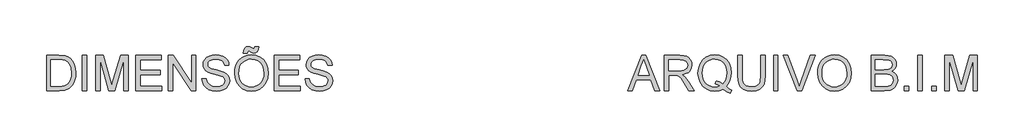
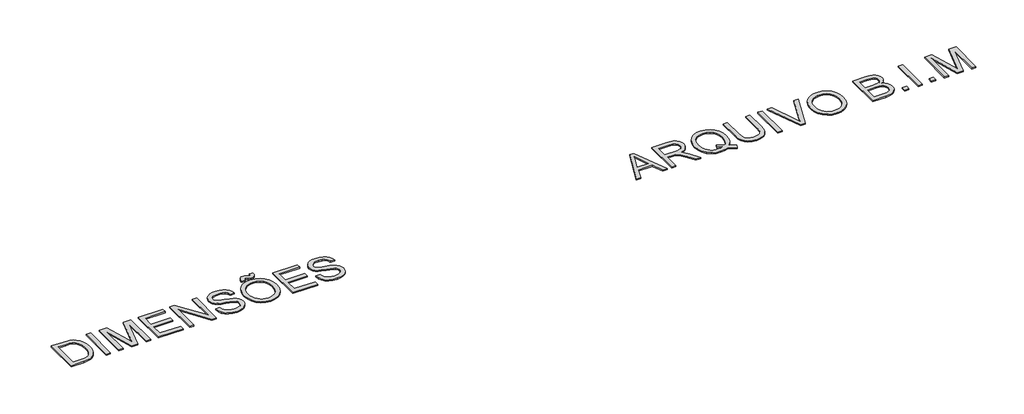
# One storey, part 38 of 39: 2 proxies.
"""IFC4 building model written with IfcOpenShell, lengths in millimetres."""

from ifc_helpers import new_model, si_unit, origin, origin_with_axes, place, context, project, spatial, polyline, outline, extrude, element, save

model = new_model("IFC4")

# Units and contexts
model_context = context("Model", 3, world=origin())
ifc_project = project(units=[si_unit("LENGTHUNIT", "METRE", prefix="MILLI")], contexts=[model_context])

# Site, building, storey
site = spatial("IfcSite", under=ifc_project)
building = spatial("IfcBuilding", under=site)
storey = spatial("IfcBuildingStorey", under=building, Name="Marelli - Linha PROFIT - Planta Baixa", Elevation=0.0)

# Proxies
placement = place(None, origin())
element("IfcBuildingElementProxy", 1, Name="300mm Arial", ObjectType="300mm Arial", at=placement, inside=storey, context=model_context, shape_type="SweptSolid", body=[
    extrude(outline(polyline([(24684.665269, 14219.4336799), (24684.665269, 14520.8026104), (24788.6287208, 14520.8026104), (24842.4130685, 14516.4616028), (24866.4357628, 14508.0922874), (24886.7060607, 14494.9037179), (24907.5465757, 14471.9478814), (24922.3906142, 14443.4002386), (24931.2749644, 14409.8126124), (24934.2364145, 14371.7368259), (24932.2314576, 14339.3908015), (24926.216587, 14310.9259321), (24917.0563253, 14286.6917057), (24905.6151953, 14267.0376101), (24892.4450198, 14251.522187), (24878.097622, 14239.7039779), (24861.6257057, 14230.9391893), (24842.0819747, 14224.5840279), (24793.6319159, 14219.4336799), (24684.665269, 14219.4336799)]), holes=[polyline([(24722.3363853, 14257.1047962), (24788.9966028, 14257.1047962), (24816.5693583, 14258.4659596), (24837.4834498, 14262.5494498), (24853.2655873, 14269.1161434), (24865.4424814, 14277.9269172), (24878.5298834, 14294.2332866), (24888.3615297, 14315.3405161), (24894.5143561, 14341.3405761), (24896.5652982, 14372.3254371), (24892.5461874, 14413.3810678), (24880.488855, 14443.6945442), (24862.6741694, 14464.5166651), (24841.3829989, 14477.0982294), (24819.7147494, 14481.6231779), (24787.9665332, 14483.1314941), (24722.3363853, 14483.1314941), (24722.3363853, 14257.1047962)])]), origin_with_axes(), (0.0, 0.0, 1.0), 10.0),
    extrude(outline(polyline([(24990.7430889, 14219.4336799), (24990.7430889, 14520.8026104), (25028.4142052, 14520.8026104), (25028.4142052, 14219.4336799), (24990.7430889, 14219.4336799)])), origin_with_axes(), (0.0, 0.0, 1.0), 10.0),
    extrude(outline(polyline([(25103.7564379, 14219.4336799), (25103.7564379, 14520.8026104), (25168.5772454, 14520.8026104), (25230.2342678, 14308.3875464), (25242.6686792, 14264.0209777), (25256.1331603, 14312.0663663), (25316.7601131, 14520.8026104), (25381.5809206, 14520.8026104), (25381.5809206, 14219.4336799), (25343.9098043, 14219.4336799), (25343.9098043, 14483.1314941), (25268.1996897, 14219.4336799), (25217.1376688, 14219.4336799), (25141.4275542, 14483.1314941), (25141.4275542, 14219.4336799), (25103.7564379, 14219.4336799)])), origin_with_axes(), (0.0, 0.0, 1.0), 10.0),
    extrude(outline(polyline([(25447.5053742, 14219.4336799), (25447.5053742, 14520.8026104), (25664.1142929, 14520.8026104), (25664.1142929, 14483.1314941), (25485.1764905, 14483.1314941), (25485.1764905, 14393.6625928), (25654.6965138, 14393.6625928), (25654.6965138, 14355.9914765), (25485.1764905, 14355.9914765), (25485.1764905, 14257.1047962), (25668.8231825, 14257.1047962), (25668.8231825, 14219.4336799), (25447.5053742, 14219.4336799)])), origin_with_axes(), (0.0, 0.0, 1.0), 10.0),
    extrude(outline(polyline([(25725.3298569, 14219.4336799), (25725.3298569, 14520.8026104), (25765.6497236, 14520.8026104), (25923.1032175, 14282.0471955), (25923.1032175, 14520.8026104), (25960.7743338, 14520.8026104), (25960.7743338, 14219.4336799), (25920.4544672, 14219.4336799), (25763.0009732, 14458.2626712), (25763.0009732, 14219.4336799), (25725.3298569, 14219.4336799)])), origin_with_axes(), (0.0, 0.0, 1.0), 10.0),
    extrude(outline(polyline([(26012.5721187, 14323.0292498), (26050.2432351, 14323.0292498), (26054.5658485, 14302.1243554), (26062.3833409, 14285.3213453), (26074.578629, 14271.9856229), (26092.0346297, 14261.482592), (26113.3717854, 14254.667578), (26137.2105387, 14252.3959067), (26158.1982065, 14254.115755), (26176.5739122, 14259.2753), (26191.463936, 14267.4422803), (26201.9945581, 14278.1844346), (26208.257749, 14290.5176784), (26210.3454794, 14303.4579276), (26208.7819809, 14316.067083), (26204.0914854, 14326.9655871), (26194.5633418, 14336.2638046), (26178.4868986, 14344.0720999), (26123.6356931, 14358.4562859), (26087.6292428, 14367.9752325), (26064.5906329, 14377.0343267), (26045.8378482, 14389.7078614), (26032.5481111, 14405.0669347), (26024.6294511, 14422.7804528), (26021.9898978, 14442.5173218), (26025.2548505, 14464.5810445), (26035.0497087, 14485.154845), (26051.1169548, 14502.5924516), (26073.1990716, 14515.2475923), (26099.7049693, 14522.945523), (26129.0435584, 14525.5114999), (26160.8285628, 14522.8259614), (26188.6404416, 14514.7693457), (26211.4859135, 14501.5071997), (26228.3716971, 14483.2050705), (26239.0586691, 14461.0033921), (26243.3077061, 14436.0425987), (26205.6365898, 14436.0425987), (26198.7204083, 14458.5201886), (26184.2994341, 14474.7437846), (26161.7666619, 14484.5662339), (26130.5150864, 14487.8403836), (26098.5277469, 14484.6030221), (26076.5835859, 14474.8909374), (26063.8916571, 14460.5987219), (26059.6610141, 14443.6209678), (26062.6592524, 14429.1448113), (26071.6539672, 14417.5013461), (26092.9175465, 14407.0902857), (26133.1638368, 14396.458496), (26174.697714, 14386.3601352), (26199.8240543, 14377.5493615), (26221.2991658, 14363.8825453), (26236.28116, 14347.0151559), (26245.0827367, 14327.131134), (26248.0165957, 14304.4144208), (26244.6412784, 14281.1918699), (26234.5153264, 14259.3488764), (26218.0526072, 14240.5501065), (26195.6669877, 14226.460226), (26168.7472227, 14217.6586493), (26138.6820667, 14214.7247904), (26101.7743055, 14217.8885756), (26071.3964498, 14227.379931), (26047.1990115, 14243.235645), (26028.8325029, 14265.4925057), (26017.041885, 14292.6054088), (26012.5721187, 14323.0292498)])), origin_with_axes(), (0.0, 0.0, 1.0), 10.0),
    extrude(outline(polyline([(26290.3966015, 14366.1450196), (26292.9073961, 14401.4938808), (26300.43978, 14432.786843), (26312.9937531, 14460.0239063), (26330.5693154, 14483.2050705), (26352.1134047, 14501.7141334), (26376.5729589, 14514.9348926), (26403.9479778, 14522.8673481), (26434.2384616, 14525.5114999), (26473.767382, 14520.545093), (26509.2128122, 14505.6458722), (26538.6433718, 14481.8623012), (26560.1276804, 14450.2428437), (26573.2610676, 14412.31421), (26577.6388633, 14369.6031104), (26573.0311413, 14326.3217936), (26559.2079754, 14287.859731), (26536.9327206, 14256.1850912), (26506.9687321, 14233.266043), (26471.8268045, 14219.3601035), (26434.0177324, 14214.7247904), (26393.8818067, 14219.8475472), (26358.2340414, 14235.2158175), (26328.8770582, 14259.4408469), (26307.6134789, 14291.1338808), (26294.7008208, 14327.6001836), (26290.3966015, 14366.1450196)]), holes=[polyline([(26328.0677178, 14365.7771376), (26329.9508138, 14340.8025487), (26335.6001017, 14318.6330599), (26345.0155815, 14299.2686714), (26358.1972532, 14282.7093831), (26374.2208134, 14269.4472372), (26392.1619584, 14259.9742758), (26412.0206884, 14254.290499), (26433.7970032, 14252.3959067), (26455.9457986, 14254.3088931), (26476.0390533, 14260.0478522), (26494.0767674, 14269.6127841), (26510.0589408, 14283.0036887), (26523.1440435, 14299.9124649), (26532.4905455, 14320.0310115), (26538.0984466, 14343.3593285), (26539.967747, 14369.897416), (26536.7671737, 14403.2459188), (26527.1654536, 14432.0694731), (26511.4109072, 14455.641512), (26489.7518547, 14473.2354684), (26463.623036, 14484.1891548), (26434.4591908, 14487.8403836), (26413.4393333, 14486.0814478), (26393.936989, 14480.8046405), (26375.952158, 14472.0099615), (26359.4848402, 14459.697411), (26345.7398492, 14443.2737792), (26335.9219984, 14422.1458563), (26330.031288, 14396.3136425), (26328.0677178, 14365.7771376)])]), origin_with_axes(), (0.0, 0.0, 1.0), 10.0),
    extrude(outline(polyline([(26365.7388341, 14539.6381685), (26368.5899196, 14562.7963401), (26377.4374816, 14580.7673756), (26390.7732039, 14592.3004761), (26407.383076, 14596.144843), (26421.2890154, 14593.1098165), (26437.5493996, 14584.0047372), (26452.7797142, 14577.3092848), (26460.7627535, 14581.0984694), (26464.6255144, 14596.144843), (26497.5877412, 14596.144843), (26494.3043944, 14571.4231729), (26485.6315763, 14553.7648371), (26472.7281154, 14543.1698357), (26456.7528397, 14539.6381685), (26442.7549298, 14542.5076481), (26426.9543981, 14551.1160868), (26411.0618959, 14558.4737267), (26402.0855752, 14553.6912607), (26398.7010609, 14539.6381685), (26365.7388341, 14539.6381685)])), origin_with_axes(), (0.0, 0.0, 1.0), 10.0),
    extrude(outline(polyline([(26629.4366483, 14219.4336799), (26629.4366483, 14520.8026104), (26846.045567, 14520.8026104), (26846.045567, 14483.1314941), (26667.1077646, 14483.1314941), (26667.1077646, 14393.6625928), (26836.6277879, 14393.6625928), (26836.6277879, 14355.9914765), (26667.1077646, 14355.9914765), (26667.1077646, 14257.1047962), (26850.7544566, 14257.1047962), (26850.7544566, 14219.4336799), (26629.4366483, 14219.4336799)])), origin_with_axes(), (0.0, 0.0, 1.0), 10.0),
    extrude(outline(polyline([(26893.1344624, 14323.0292498), (26930.8055787, 14323.0292498), (26935.1281922, 14302.1243554), (26942.9456845, 14285.3213453), (26955.1409727, 14271.9856229), (26972.5969734, 14261.482592), (26993.9341291, 14254.667578), (27017.7728824, 14252.3959067), (27038.7605502, 14254.115755), (27057.1362559, 14259.2753), (27072.0262796, 14267.4422803), (27082.5569017, 14278.1844346), (27088.8200927, 14290.5176784), (27090.907823, 14303.4579276), (27089.3443245, 14316.067083), (27084.6538291, 14326.9655871), (27075.1256854, 14336.2638046), (27059.0492422, 14344.0720999), (27004.1980367, 14358.4562859), (26968.1915865, 14367.9752325), (26945.1529765, 14377.0343267), (26926.4001918, 14389.7078614), (26913.1104547, 14405.0669347), (26905.1917948, 14422.7804528), (26902.5522415, 14442.5173218), (26905.8171942, 14464.5810445), (26915.6120523, 14485.154845), (26931.6792984, 14502.5924516), (26953.7614152, 14515.2475923), (26980.267313, 14522.945523), (27009.6059021, 14525.5114999), (27041.3909065, 14522.8259614), (27069.2027853, 14514.7693457), (27092.0482572, 14501.5071997), (27108.9340408, 14483.2050705), (27119.6210127, 14461.0033921), (27123.8700498, 14436.0425987), (27086.1989335, 14436.0425987), (27079.282752, 14458.5201886), (27064.8617777, 14474.7437846), (27042.3290055, 14484.5662339), (27011.0774301, 14487.8403836), (26979.0900906, 14484.6030221), (26957.1459296, 14474.8909374), (26944.4540007, 14460.5987219), (26940.2233578, 14443.6209678), (26943.221596, 14429.1448113), (26952.2163108, 14417.5013461), (26973.4798901, 14407.0902857), (27013.7261804, 14396.458496), (27055.2600577, 14386.3601352), (27080.3863979, 14377.5493615), (27101.8615094, 14363.8825453), (27116.8435037, 14347.0151559), (27125.6450804, 14327.131134), (27128.5789393, 14304.4144208), (27125.203622, 14281.1918699), (27115.0776701, 14259.3488764), (27098.6149508, 14240.5501065), (27076.2293314, 14226.460226), (27049.3095664, 14217.6586493), (27019.2444103, 14214.7247904), (26982.3366492, 14217.8885756), (26951.9587934, 14227.379931), (26927.7613552, 14243.235645), (26909.3948466, 14265.4925057), (26897.6042286, 14292.6054088), (26893.1344624, 14323.0292498)])), origin_with_axes(), (0.0, 0.0, 1.0), 10.0),
])
element("IfcBuildingElementProxy", 2, Name="300mm Arial", ObjectType="300mm Arial", at=placement, inside=storey, context=model_context, shape_type="SweptSolid", body=[
    extrude(outline(polyline([(29649.579499, 14219.4336799), (29769.8769114, 14520.8026104), (29801.9562214, 14520.8026104), (29922.2536338, 14219.4336799), (29882.448802, 14219.4336799), (29847.9414708, 14313.6114707), (29723.8180857, 14313.6114707), (29689.3843309, 14219.4336799), (29649.579499, 14219.4336799)]), holes=[polyline([(29737.6504487, 14351.282587), (29834.1826842, 14351.282587), (29807.032993, 14425.3740208), (29785.9165664, 14483.1314941), (29767.1545847, 14431.8487439), (29737.6504487, 14351.282587)])]), origin_with_axes(), (0.0, 0.0, 1.0), 10.0),
    extrude(outline(polyline([(29962.4999241, 14219.4336799), (29962.4999241, 14520.8026104), (30092.3622684, 14520.8026104), (30127.2650727, 14518.7700624), (30152.6581274, 14512.6724183), (30171.2177741, 14501.4152292), (30185.6203542, 14483.9040463), (30194.8633893, 14462.1898115), (30197.944401, 14438.3234671), (30192.8400384, 14408.6353901), (30177.5269503, 14384.0240846), (30165.9271711, 14373.9947017), (30151.5452844, 14365.9794727), (30114.4351881, 14355.9914765), (30135.8459202, 14339.8782452), (30166.3801258, 14301.1034829), (30216.6328064, 14219.4336799), (30172.854849, 14219.4336799), (30133.6386283, 14281.9000427), (30105.3117146, 14323.249979), (30085.4092987, 14342.7845129), (30067.4934455, 14349.9582118), (30045.641255, 14351.282587), (30000.1710404, 14351.282587), (30000.1710404, 14219.4336799), (29962.4999241, 14219.4336799)]), holes=[polyline([(30000.1710404, 14388.9537033), (30084.4895937, 14388.9537033), (30108.7054261, 14390.2872755), (30127.494999, 14394.2879922), (30141.6400617, 14401.2225678), (30151.9223634, 14411.3577168), (30158.1855544, 14423.6173843), (30160.2732847, 14436.9255155), (30156.2909621, 14455.3012211), (30144.3439943, 14470.1084714), (30123.7885879, 14479.8757384), (30093.9809492, 14483.1314941), (30000.1710404, 14483.1314941), (30000.1710404, 14388.9537033)])]), origin_with_axes(), (0.0, 0.0, 1.0), 10.0),
    extrude(outline(polyline([(30490.2634344, 14255.5596919), (30514.5988284, 14236.963257), (30536.9844478, 14224.1425695), (30526.8309047, 14196.5514198), (30495.7632702, 14210.9539999), (30464.8060003, 14231.794515), (30429.9491813, 14218.9922215), (30391.5974833, 14214.7247904), (30353.0618443, 14219.6452121), (30318.2418135, 14234.4064771), (30289.0779683, 14258.0796835), (30267.5108863, 14289.7359292), (30254.184361, 14327.6369718), (30249.742186, 14370.0445688), (30254.175164, 14412.488954), (30267.4740981, 14450.9418195), (30288.9584066, 14483.0487206), (30317.9475079, 14506.4552126), (30352.63878, 14520.7474281), (30391.2296013, 14525.5114999), (30430.1239252, 14520.6370635), (30464.9899413, 14506.0137542), (30493.9330573, 14482.6164593), (30515.0586809, 14451.4200661), (30527.9713389, 14414.0800436), (30532.2755583, 14372.2518607), (30529.6635961, 14337.4686181), (30521.8277096, 14306.4009836), (30508.7127165, 14279.0857454), (30490.2634344, 14255.5596919)]), holes=[polyline([(30401.9717556, 14305.6652196), (30433.6463953, 14293.6906607), (30459.214194, 14277.0440004), (30474.6974275, 14294.5183951), (30485.75688, 14315.8923391), (30492.3925514, 14341.1658321), (30494.6044419, 14370.3388744), (30491.477445, 14403.4942392), (30482.0964541, 14432.1798377), (30466.6913956, 14455.6691031), (30445.4921956, 14473.2354684), (30419.933594, 14484.1891548), (30391.4503305, 14487.8403836), (30369.966022, 14485.9940758), (30350.3946998, 14480.4551526), (30332.7363641, 14471.2236137), (30316.9910147, 14458.2994594), (30304.0507655, 14441.7102807), (30294.8077304, 14421.4836687), (30289.2619093, 14397.6196236), (30287.4133023, 14370.1181452), (30289.2412159, 14343.3340366), (30294.7249569, 14319.8562676), (30303.8645252, 14299.6848379), (30316.6599209, 14282.8197477), (30332.2972049, 14269.5093173), (30349.9624385, 14260.0018669), (30369.6556215, 14254.2973968), (30391.3767541, 14252.3959067), (30412.2908455, 14254.3272872), (30431.91735, 14260.1214286), (30412.6219393, 14270.146213), (30392.2596709, 14276.8232712), (30401.9717556, 14305.6652196)])]), origin_with_axes(), (0.0, 0.0, 1.0), 10.0),
    extrude(outline(polyline([(30786.5555933, 14520.8026104), (30824.2267096, 14520.8026104), (30824.2267096, 14346.9415795), (30821.6699298, 14306.2262396), (30813.9995902, 14274.8734966), (30799.6705864, 14250.6852554), (30777.1378142, 14231.4634212), (30746.3460912, 14218.9094481), (30707.2402352, 14214.7247904), (30668.9897047, 14218.3668221), (30638.4095139, 14229.2929174), (30615.4904656, 14247.1259971), (30600.2233628, 14271.4889822), (30591.6425152, 14304.1661005), (30588.7822327, 14346.9415795), (30588.7822327, 14520.8026104), (30626.453349, 14520.8026104), (30626.453349, 14348.2659546), (30628.3111531, 14314.411614), (30633.8845653, 14290.8395752), (30643.9829261, 14274.5148117), (30659.4155758, 14262.402297), (30679.5387209, 14254.8975043), (30703.708568, 14252.3959067), (30742.0234778, 14257.3439195), (30756.3662771, 14263.5289356), (30767.499306, 14272.187958), (30775.8364317, 14284.3648521), (30781.7915215, 14301.1034829), (30786.5555933, 14348.2659546), (30786.5555933, 14520.8026104)])), origin_with_axes(), (0.0, 0.0, 1.0), 10.0),
    extrude(outline(polyline([(30894.8600527, 14219.4336799), (30894.8600527, 14520.8026104), (30932.531169, 14520.8026104), (30932.531169, 14219.4336799), (30894.8600527, 14219.4336799)])), origin_with_axes(), (0.0, 0.0, 1.0), 10.0),
    extrude(outline(polyline([(31096.9008444, 14219.4336799), (30976.971314, 14520.8026104), (31017.2911807, 14520.8026104), (31097.563032, 14303.6786568), (31113.8234162, 14254.7503515), (31129.8630712, 14303.6786568), (31210.3556518, 14520.8026104), (31250.6755184, 14520.8026104), (31135.8227595, 14219.4336799), (31096.9008444, 14219.4336799)])), origin_with_axes(), (0.0, 0.0, 1.0), 10.0),
    extrude(outline(polyline([(31271.5712158, 14366.1450196), (31274.0820104, 14401.4938808), (31281.6143942, 14432.786843), (31294.1683673, 14460.0239063), (31311.7439296, 14483.2050705), (31333.288019, 14501.7141334), (31357.7475731, 14514.9348926), (31385.1225921, 14522.8673481), (31415.4130759, 14525.5114999), (31454.9419963, 14520.545093), (31490.3874265, 14505.6458722), (31519.8179861, 14481.8623012), (31541.3022946, 14450.2428437), (31554.4356819, 14412.31421), (31558.8134776, 14369.6031104), (31554.2057556, 14326.3217936), (31540.3825896, 14287.859731), (31518.1073348, 14256.1850912), (31488.1433463, 14233.266043), (31453.0014187, 14219.3601035), (31415.1923467, 14214.7247904), (31375.056421, 14219.8475472), (31339.4086557, 14235.2158175), (31310.0516725, 14259.4408469), (31288.7880931, 14291.1338808), (31275.8754351, 14327.6001836), (31271.5712158, 14366.1450196)]), holes=[polyline([(31309.2423321, 14365.7771376), (31311.125428, 14340.8025487), (31316.7747159, 14318.6330599), (31326.1901957, 14299.2686714), (31339.3718675, 14282.7093831), (31355.3954276, 14269.4472372), (31373.3365727, 14259.9742758), (31393.1953026, 14254.290499), (31414.9716175, 14252.3959067), (31437.1204129, 14254.3088931), (31457.2136676, 14260.0478522), (31475.2513817, 14269.6127841), (31491.2335551, 14283.0036887), (31504.3186578, 14299.9124649), (31513.6651597, 14320.0310115), (31519.2730609, 14343.3593285), (31521.1423613, 14369.897416), (31517.9417879, 14403.2459188), (31508.3400679, 14432.0694731), (31492.5855214, 14455.641512), (31470.9264689, 14473.2354684), (31444.7976502, 14484.1891548), (31415.6338051, 14487.8403836), (31394.6139476, 14486.0814478), (31375.1116033, 14480.8046405), (31357.1267723, 14472.0099615), (31340.6594545, 14459.697411), (31326.9144634, 14443.2737792), (31317.0966127, 14422.1458563), (31311.2059022, 14396.3136425), (31309.2423321, 14365.7771376)])]), origin_with_axes(), (0.0, 0.0, 1.0), 10.0),
    extrude(outline(polyline([(31728.333501, 14219.4336799), (31728.333501, 14520.8026104), (31843.3334127, 14520.8026104), (31874.9620672, 14518.5861214), (31899.6561461, 14511.9366543), (31918.5836748, 14500.6886623), (31932.9126785, 14484.6765985), (31941.9349844, 14465.8410403), (31944.9424197, 14446.1225654), (31942.413231, 14427.9767859), (31934.8256649, 14410.9162584), (31922.124539, 14395.9894465), (31904.2546711, 14384.2448138), (31925.6010238, 14373.0979893), (31941.3739644, 14356.1386293), (31951.1136402, 14334.4887739), (31954.3601988, 14309.2704632), (31952.1437098, 14288.2552042), (31945.4942427, 14268.7666555), (31935.5706259, 14252.1935716), (31923.5316876, 14239.9247071), (31908.7888167, 14231.0403569), (31890.7534018, 14224.6208161), (31842.4504959, 14219.4336799), (31728.333501, 14219.4336799)]), holes=[polyline([(31766.0046173, 14398.3714824), (31834.7985504, 14398.3714824), (31874.9712642, 14401.6088439), (31889.0335535, 14407.1914532), (31899.1411113, 14415.5515716), (31905.2387554, 14426.5604403), (31907.2713034, 14440.0893006), (31905.3767111, 14453.2226879), (31899.6929343, 14464.6638179), (31890.4774903, 14473.5941533), (31877.9878966, 14479.1951567), (31829.574626, 14483.1314941), (31766.0046173, 14483.1314941), (31766.0046173, 14398.3714824)]), polyline([(31766.0046173, 14257.1047962), (31843.2598363, 14257.1047962), (31871.2188679, 14258.5763242), (31894.8736802, 14266.7800927), (31910.5454532, 14283.5187235), (31915.1531752, 14295.3461296), (31916.6890825, 14308.9025812), (31914.8864607, 14324.6479306), (31909.4785954, 14338.185988), (31900.0332252, 14348.7717924), (31886.1180887, 14355.6603827), (31866.4088108, 14359.4403702), (31839.5810163, 14360.7003661), (31766.0046173, 14360.7003661), (31766.0046173, 14257.1047962)])]), origin_with_axes(), (0.0, 0.0, 1.0), 10.0),
    extrude(outline(polyline([(32010.8668733, 14219.4336799), (32010.8668733, 14257.1047962), (32048.5379896, 14257.1047962), (32048.5379896, 14219.4336799), (32010.8668733, 14219.4336799)])), origin_with_axes(), (0.0, 0.0, 1.0), 10.0),
    extrude(outline(polyline([(32128.5891117, 14219.4336799), (32128.5891117, 14520.8026104), (32166.260228, 14520.8026104), (32166.260228, 14219.4336799), (32128.5891117, 14219.4336799)])), origin_with_axes(), (0.0, 0.0, 1.0), 10.0),
    extrude(outline(polyline([(32246.3113502, 14219.4336799), (32246.3113502, 14257.1047962), (32283.9824665, 14257.1047962), (32283.9824665, 14219.4336799), (32246.3113502, 14219.4336799)])), origin_with_axes(), (0.0, 0.0, 1.0), 10.0),
    extrude(outline(polyline([(32359.3246991, 14219.4336799), (32359.3246991, 14520.8026104), (32424.1455066, 14520.8026104), (32485.802529, 14308.3875464), (32498.2369405, 14264.0209777), (32511.7014215, 14312.0663663), (32572.3283743, 14520.8026104), (32637.1491819, 14520.8026104), (32637.1491819, 14219.4336799), (32599.4780655, 14219.4336799), (32599.4780655, 14483.1314941), (32523.7679509, 14219.4336799), (32472.70593, 14219.4336799), (32396.9958154, 14483.1314941), (32396.9958154, 14219.4336799), (32359.3246991, 14219.4336799)])), origin_with_axes(), (0.0, 0.0, 1.0), 10.0),
])

save(model, "model.ifc")
